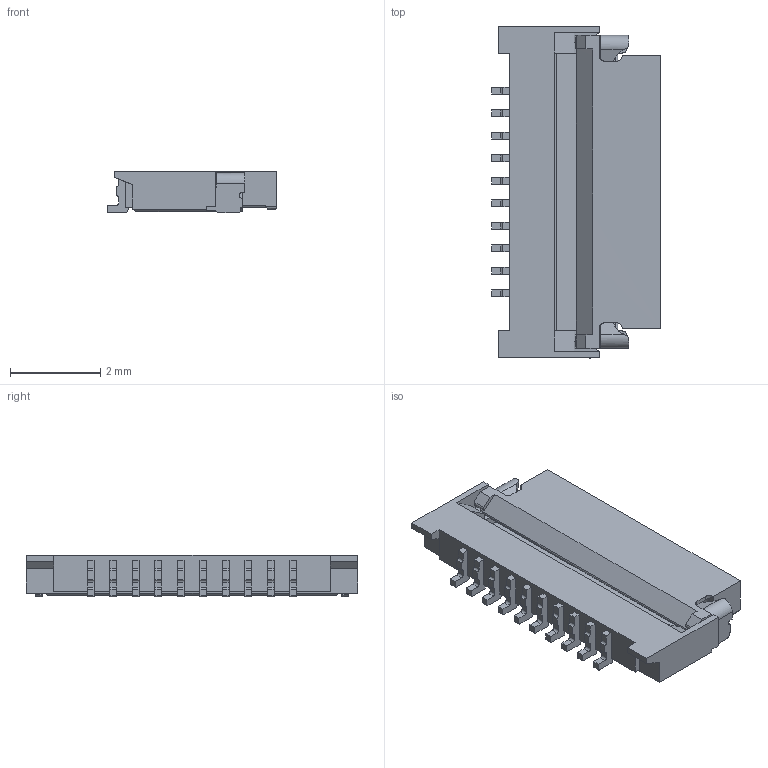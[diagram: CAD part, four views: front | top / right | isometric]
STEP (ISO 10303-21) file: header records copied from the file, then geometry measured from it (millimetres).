
FILE_DESCRIPTION (( 'STEP AP214' ), '1' );
FILE_NAME ('006809610010.STEP', '2023-02-21T02:59:21', ( '' ), ( '' ), 'SwSTEP 2.0', 'SolidWorks 2021', '' );
FILE_SCHEMA (( 'AUTOMOTIVE_DESIGN' ));
Length unit declared in the file: millimetre
Products named in the file (1): 006809610010
Bounding box: 3.75 x 7.37 x 0.93 mm (x, y, z)
Volume: 13.5 mm3; surface area: 100.7 mm2
Topology: 1 solids, 1 shells, 391 faces, 1174 edges, 783 vertices
Faces by surface type: plane 276, cylinder 109, cone 4, sphere 2
Entity records: 13481 total; most frequent: CARTESIAN_POINT 3272, ORIENTED_EDGE 2348, DIRECTION 1850, EDGE_CURVE 1174, VERTEX_POINT 783, LINE 706, VECTOR 706, AXIS2_PLACEMENT_3D 572
